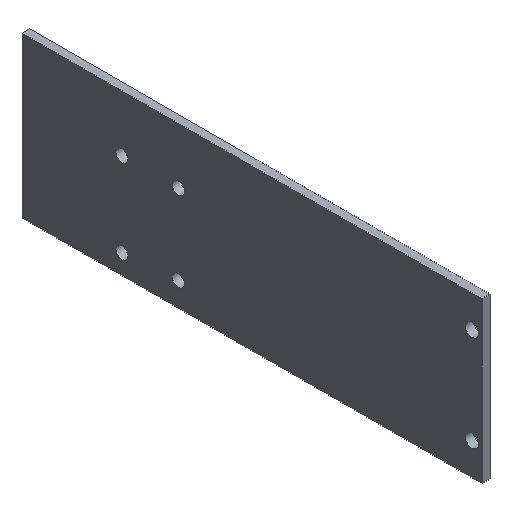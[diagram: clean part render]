
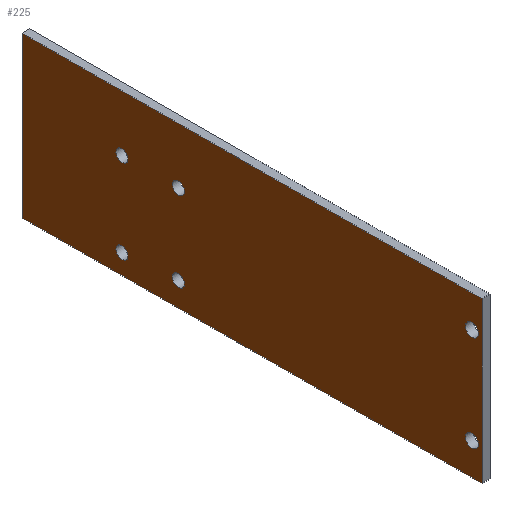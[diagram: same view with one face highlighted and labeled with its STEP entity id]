
A CAD part, isometric view. The second image highlights one B-rep face of the part: STEP entity #225.
In plain terms, the highlighted planar face has unit normal (-1, 0, 0).
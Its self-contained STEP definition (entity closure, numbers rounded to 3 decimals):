
#32=CIRCLE('',#257,1.5);
#33=CIRCLE('',#258,1.5);
#34=CIRCLE('',#259,1.5);
#35=CIRCLE('',#260,1.5);
#36=CIRCLE('',#261,1.6);
#37=CIRCLE('',#262,1.6);
#64=ORIENTED_EDGE('',*,*,#104,.F.);
#65=ORIENTED_EDGE('',*,*,#105,.F.);
#66=ORIENTED_EDGE('',*,*,#106,.F.);
#67=ORIENTED_EDGE('',*,*,#107,.F.);
#68=ORIENTED_EDGE('',*,*,#108,.T.);
#69=ORIENTED_EDGE('',*,*,#109,.T.);
#70=ORIENTED_EDGE('',*,*,#86,.F.);
#71=ORIENTED_EDGE('',*,*,#96,.F.);
#72=ORIENTED_EDGE('',*,*,#93,.F.);
#73=ORIENTED_EDGE('',*,*,#90,.F.);
#86=EDGE_CURVE('',#110,#111,#130,.T.);
#90=EDGE_CURVE('',#111,#114,#134,.T.);
#93=EDGE_CURVE('',#114,#116,#137,.T.);
#96=EDGE_CURVE('',#116,#110,#140,.T.);
#104=EDGE_CURVE('',#124,#124,#32,.T.);
#105=EDGE_CURVE('',#125,#125,#33,.T.);
#106=EDGE_CURVE('',#126,#126,#34,.T.);
#107=EDGE_CURVE('',#127,#127,#35,.T.);
#108=EDGE_CURVE('',#128,#128,#36,.T.);
#109=EDGE_CURVE('',#129,#129,#37,.T.);
#110=VERTEX_POINT('',#334);
#111=VERTEX_POINT('',#335);
#114=VERTEX_POINT('',#343);
#116=VERTEX_POINT('',#349);
#124=VERTEX_POINT('',#371);
#125=VERTEX_POINT('',#373);
#126=VERTEX_POINT('',#375);
#127=VERTEX_POINT('',#377);
#128=VERTEX_POINT('',#379);
#129=VERTEX_POINT('',#381);
#130=LINE('',#333,#142);
#134=LINE('',#342,#146);
#137=LINE('',#348,#149);
#140=LINE('',#354,#152);
#142=VECTOR('',#273,1000.);
#146=VECTOR('',#279,1000.);
#149=VECTOR('',#284,1000.);
#152=VECTOR('',#289,1000.);
#165=EDGE_LOOP('',(#64));
#166=EDGE_LOOP('',(#65));
#167=EDGE_LOOP('',(#66));
#168=EDGE_LOOP('',(#67));
#169=EDGE_LOOP('',(#68));
#170=EDGE_LOOP('',(#69));
#171=EDGE_LOOP('',(#70,#71,#72,#73));
#195=FACE_BOUND('',#165,.T.);
#196=FACE_BOUND('',#166,.T.);
#197=FACE_BOUND('',#167,.T.);
#198=FACE_BOUND('',#168,.T.);
#199=FACE_BOUND('',#169,.T.);
#200=FACE_BOUND('',#170,.T.);
#201=FACE_BOUND('',#171,.T.);
#219=PLANE('',#256);
#225=ADVANCED_FACE('',(#195,#196,#197,#198,#199,#200,#201),#219,.F.);
#256=AXIS2_PLACEMENT_3D('',#369,#305,#306);
#257=AXIS2_PLACEMENT_3D('',#370,#307,#308);
#258=AXIS2_PLACEMENT_3D('',#372,#309,#310);
#259=AXIS2_PLACEMENT_3D('',#374,#311,#312);
#260=AXIS2_PLACEMENT_3D('',#376,#313,#314);
#261=AXIS2_PLACEMENT_3D('',#378,#315,#316);
#262=AXIS2_PLACEMENT_3D('',#380,#317,#318);
#273=DIRECTION('',(0.,1.,0.));
#279=DIRECTION('',(0.,0.,1.));
#284=DIRECTION('',(0.,-1.,0.));
#289=DIRECTION('',(0.,0.,-1.));
#305=DIRECTION('',(1.,0.,0.));
#306=DIRECTION('',(0.,0.,-1.));
#307=DIRECTION('',(-1.,0.,0.));
#308=DIRECTION('',(0.,0.,1.));
#309=DIRECTION('',(-1.,0.,0.));
#310=DIRECTION('',(0.,0.,1.));
#311=DIRECTION('',(-1.,0.,0.));
#312=DIRECTION('',(0.,0.,1.));
#313=DIRECTION('',(-1.,0.,0.));
#314=DIRECTION('',(0.,0.,1.));
#315=DIRECTION('',(1.,0.,0.));
#316=DIRECTION('',(0.,0.,-1.));
#317=DIRECTION('',(1.,0.,0.));
#318=DIRECTION('',(0.,0.,-1.));
#333=CARTESIAN_POINT('',(0.,115.,-20.));
#334=CARTESIAN_POINT('',(0.,0.,-20.));
#335=CARTESIAN_POINT('',(0.,115.,-20.));
#342=CARTESIAN_POINT('',(0.,115.,20.));
#343=CARTESIAN_POINT('',(0.,115.,20.));
#348=CARTESIAN_POINT('',(0.,115.,20.));
#349=CARTESIAN_POINT('',(0.,0.,20.));
#354=CARTESIAN_POINT('',(0.,0.,20.));
#369=CARTESIAN_POINT('',(0.,0.,0.));
#370=CARTESIAN_POINT('',(0.,75.9,-14.));
#371=CARTESIAN_POINT('',(0.,75.9,-12.5));
#372=CARTESIAN_POINT('',(0.,75.9,6.));
#373=CARTESIAN_POINT('',(0.,75.9,7.5));
#374=CARTESIAN_POINT('',(0.,90.,-15.));
#375=CARTESIAN_POINT('',(0.,90.,-13.5));
#376=CARTESIAN_POINT('',(0.,90.,6.));
#377=CARTESIAN_POINT('',(0.,90.,7.5));
#378=CARTESIAN_POINT('',(0.,2.5,12.));
#379=CARTESIAN_POINT('',(0.,2.5,10.4));
#380=CARTESIAN_POINT('',(0.,2.5,-12.));
#381=CARTESIAN_POINT('',(0.,2.5,-13.6));
